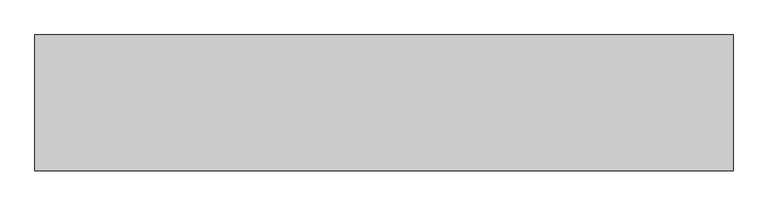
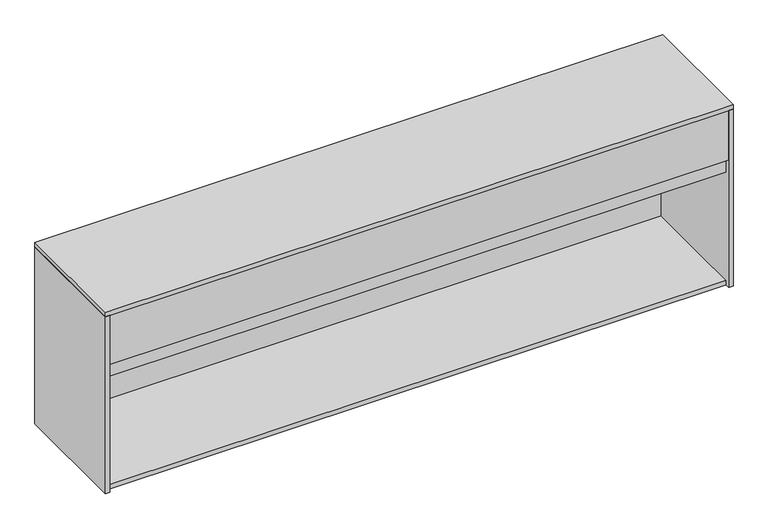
"""IFC4 building model written with IfcOpenShell, lengths in millimetres: furniture geometry, Vanity-Compact Laminate-Duracube-Cabinet Semi Recessed Basin 350 : No Basins no Splashback."""

import ifcopenshell
import ifcopenshell.guid

model = None  # the IFC model being written
_history = None  # IfcOwnerHistory: only IFC2X3 demands one
_inside = {}  # id of a spatial element -> (the spatial element, [elements in it])
_under = {}  # id of a project, library or spatial element -> (it, [spatial elements below it])
_declared = {}  # id of a project -> (the project, [libraries it declares])
_typed = {}  # id of a type object -> (the type object, [elements of that type])
_made_of = {}  # id of a material, layer set ... -> (it, [elements and type objects made of it])


def new_model(schema):
    """Start an empty IFC model of exactly this schema.

    Asked for "IFC4X3", IfcOpenShell would pick the latest addendum, in which some entities
    have other attributes; the version numbers below select the first issue.
    IFC2X3 requires an IfcOwnerHistory on every rooted entity: one is made here for all.
    """
    global model, _history
    if schema == "IFC4X3":
        model = ifcopenshell.file(schema_version=(4, 3, 0, 0))
    else:
        model = ifcopenshell.file(schema=schema)
    _inside.clear()
    _under.clear()
    _declared.clear()
    _typed.clear()
    _made_of.clear()
    _history = None
    if model.schema == "IFC2X3":
        org = make("IfcOrganization", Name="unknown")
        user = make(
            "IfcPersonAndOrganization",
            ThePerson=make("IfcPerson", FamilyName="unknown"),
            TheOrganization=org,
        )
        app = make(
            "IfcApplication",
            ApplicationDeveloper=org,
            Version="unknown",
            ApplicationFullName="unknown",
            ApplicationIdentifier="unknown",
        )
        _history = make(
            "IfcOwnerHistory",
            OwningUser=user,
            OwningApplication=app,
            ChangeAction="ADDED",
            CreationDate=0,
        )
    return model


def make(cls, **values):
    """One entity of the class cls with the attributes given. An attribute that is None is left unset."""
    return model.create_entity(
        cls, **{name: value for name, value in values.items() if value is not None}
    )


def rooted(cls, **values):
    """An entity with a GlobalId (a new one), such as an element, a storey or a relation."""
    return make(cls, GlobalId=ifcopenshell.guid.new(), OwnerHistory=_history, **values)


def si_unit(unit_type, name, prefix=None):
    """IfcSIUnit, for example si_unit("LENGTHUNIT", "METRE", prefix="MILLI")."""
    return make("IfcSIUnit", UnitType=unit_type, Prefix=prefix, Name=name)


def assignment(units):
    """IfcUnitAssignment: the units of a project."""
    return None if units is None else make("IfcUnitAssignment", Units=units)


def point(xyz):
    """IfcCartesianPoint."""
    return None if xyz is None else make("IfcCartesianPoint", Coordinates=xyz)


def direction(xyz):
    """IfcDirection."""
    return None if xyz is None else make("IfcDirection", DirectionRatios=xyz)


def frame(location, z_axis=None, x_axis=None):
    """IfcAxis2Placement3D, a coordinate frame: its origin and axes. An axis left out is left unset."""
    return make(
        "IfcAxis2Placement3D",
        Location=point(location),
        Axis=direction(z_axis),
        RefDirection=direction(x_axis),
    )


def origin():
    """The frame at (0, 0, 0) with its axes left unset."""
    return frame((0.0, 0.0, 0.0))


def place(relative_to, where):
    """IfcLocalPlacement: puts the frame where relative to a parent placement (None: the world)."""
    return make(
        "IfcLocalPlacement", PlacementRelTo=relative_to, RelativePlacement=where
    )


def context(
    kind, dimensions, precision=None, world=None, true_north=None, identifier=None
):
    """IfcGeometricRepresentationContext, for example the 3D "Model" context."""
    return make(
        "IfcGeometricRepresentationContext",
        ContextIdentifier=identifier,
        ContextType=kind,
        CoordinateSpaceDimension=dimensions,
        Precision=precision,
        WorldCoordinateSystem=world,
        TrueNorth=true_north,
    )


def project(units=None, contexts=None):
    """IfcProject with its units and contexts."""
    return rooted(
        "IfcProject",
        Name="project",
        RepresentationContexts=contexts,
        UnitsInContext=assignment(units),
    )


def spatial(cls, under=None, at=None, **own):
    """A site, building, storey or space (cls), placed at a placement, below another one or the project."""
    s = rooted(cls, ObjectPlacement=at, **own)
    if under is not None:
        _under.setdefault(under.id(), (under, []))[1].append(s)
    return s


def polyline(points):
    """IfcPolyline through the points."""
    return make("IfcPolyline", Points=[point(p) for p in points])


def outline(outer, holes=None, kind="AREA"):
    """IfcArbitraryClosedProfileDef: a profile drawn as a closed curve; with holes, ...WithVoids."""
    if holes is None:
        return make("IfcArbitraryClosedProfileDef", ProfileType=kind, OuterCurve=outer)
    return make(
        "IfcArbitraryProfileDefWithVoids",
        ProfileType=kind,
        OuterCurve=outer,
        InnerCurves=holes,
    )


def extrude(swept, where, along, depth):
    """IfcExtrudedAreaSolid: the profile swept, set in the frame where, extruded along a direction by depth."""
    return make(
        "IfcExtrudedAreaSolid",
        SweptArea=swept,
        Position=where,
        ExtrudedDirection=direction(along),
        Depth=depth,
    )


def faces_of(points, faces, orient=None, outer=None):
    """IfcFace entities. A face is a list of loops; a loop is a list of indices into points, from 0.

    orient and outer hold one flag for each loop. By default every Orientation is true, the
    first loop of a face is its IfcFaceOuterBound and the others are IfcFaceBound.
    """
    made = []
    for i, loops in enumerate(faces):
        bounds = []
        for j, loop in enumerate(loops):
            is_outer = j == 0 if outer is None else outer[i][j]
            bounds.append(
                make(
                    "IfcFaceOuterBound" if is_outer else "IfcFaceBound",
                    Bound=make("IfcPolyLoop", Polygon=[points[k] for k in loop]),
                    Orientation=True if orient is None else orient[i][j],
                )
            )
        made.append(make("IfcFace", Bounds=bounds))
    return made


def faceted_brep(points, faces, orient=None, outer=None, voids=None):
    """IfcFacetedBrep: a solid bounded by flat faces; with voids (closed shells), ...WithVoids."""
    shared = [point(p) for p in points]
    hull = make("IfcClosedShell", CfsFaces=faces_of(shared, faces, orient, outer))
    if voids is None:
        return make("IfcFacetedBrep", Outer=hull)
    return make(
        "IfcFacetedBrepWithVoids",
        Outer=hull,
        Voids=[
            make(cls, CfsFaces=faces_of(shared, fs, o, b)) for cls, fs, o, b in voids
        ],
    )


def shape(context_of_items, identifier, shape_type, items):
    """IfcShapeRepresentation: the items that make up one representation, for example the "Body"."""
    return make(
        "IfcShapeRepresentation",
        ContextOfItems=context_of_items,
        RepresentationIdentifier=identifier,
        RepresentationType=shape_type,
        Items=items,
    )


def source(mapping_origin, context_of_items, identifier, shape_type, items):
    """IfcRepresentationMap: a shape defined once, which mapped items show again and again."""
    return make(
        "IfcRepresentationMap",
        MappingOrigin=mapping_origin,
        MappedRepresentation=shape(context_of_items, identifier, shape_type, items),
    )


def transform(
    local_origin,
    x_axis=None,
    y_axis=None,
    z_axis=None,
    scale=None,
    scale2=None,
    scale3=None,
    uniform=True,
):
    """IfcCartesianTransformationOperator3D, or its non-uniform kind. x_axis, y_axis, z_axis: its Axis1, 2, 3."""
    if uniform:
        return make(
            "IfcCartesianTransformationOperator3D",
            Axis1=direction(x_axis),
            Axis2=direction(y_axis),
            LocalOrigin=point(local_origin),
            Scale=scale,
            Axis3=direction(z_axis),
        )
    return make(
        "IfcCartesianTransformationOperator3DnonUniform",
        Axis1=direction(x_axis),
        Axis2=direction(y_axis),
        LocalOrigin=point(local_origin),
        Scale=scale,
        Axis3=direction(z_axis),
        Scale2=scale2,
        Scale3=scale3,
    )


def mapped(mapping_source, mapping_target):
    """IfcMappedItem: shows the shape of a source again, moved by a transform."""
    return make(
        "IfcMappedItem", MappingSource=mapping_source, MappingTarget=mapping_target
    )


def made_of(thing, what):
    """Note that an element or type object is made of a material, layer set ...; save() writes the relation."""
    if what is not None:
        _made_of.setdefault(what.id(), (what, []))[1].append(thing)
    return thing


def element(
    cls,
    number,
    at=None,
    inside=None,
    cuts=None,
    type_object=None,
    material=None,
    context=None,
    identifier="Body",
    shape_type=None,
    held_by="IfcProductDefinitionShape",
    body=None,
    shapes=None,
    **own,
):
    """One element of the class cls, such as IfcWall. Its Tag is "e" and its number.

    at: its placement. inside: the storey or other place that contains it. cuts: it is an
    opening in that element (IfcRelVoidsElement). A single representation is given by context,
    identifier, shape_type and body (its items); several are given by shapes. held_by: the class
    of the entity that holds the representations. save() writes the other relations.
    """
    e = rooted(cls, Tag="e%d" % number, ObjectPlacement=at, **own)
    if body is not None:
        shapes = [shape(context, identifier, shape_type, body)]
    if shapes is not None:
        e.Representation = make(held_by, Representations=shapes)
    if inside is not None:
        _inside.setdefault(inside.id(), (inside, []))[1].append(e)
    if cuts is not None:
        rooted(
            "IfcRelVoidsElement", RelatingBuildingElement=cuts, RelatedOpeningElement=e
        )
    if type_object is not None:
        _typed.setdefault(type_object.id(), (type_object, []))[1].append(e)
    return made_of(e, material)


def aggregate(whole, parts):
    """IfcRelAggregates: a whole, such as a stair, and the parts it consists of."""
    return rooted("IfcRelAggregates", RelatingObject=whole, RelatedObjects=parts)


def save(model, path):
    """Write the relations noted so far, then the file.

    IfcRelAggregates (storeys below a building ...), IfcRelContainedInSpatialStructure (elements
    in a storey), IfcRelDefinesByType, IfcRelAssociatesMaterial and IfcRelDeclares: one each for
    every whole, place, type object, material and project.
    """
    for whole, parts in _under.values():
        aggregate(whole, parts)
    for where, things in _inside.values():
        rooted(
            "IfcRelContainedInSpatialStructure",
            RelatedElements=things,
            RelatingStructure=where,
        )
    for kind, things in _typed.values():
        rooted("IfcRelDefinesByType", RelatedObjects=things, RelatingType=kind)
    for what, things in _made_of.values():
        rooted("IfcRelAssociatesMaterial", RelatedObjects=things, RelatingMaterial=what)
    for by, libraries in _declared.values():
        rooted("IfcRelDeclares", RelatingContext=by, RelatedDefinitions=libraries)
    model.write(path)


def furniture_7a1c18e0(model_context):
    return source(origin(), model_context, "Body", "SolidModel", [
        extrude(outline(polyline([(1787.0, -13.0), (1787.0, -63.0), (13.0, -63.0), (13.0, -13.0), (1787.0, -13.0)])), frame((0.0, 0.0, 821.0), z_axis=(0.0, 0.0, 1.0), x_axis=(1.0, 0.0, 0.0)), (0.0, 0.0, 1.0), 16.0),
        extrude(outline(polyline([(1787.0, -13.0), (1787.0, -337.0), (13.0, -337.0), (13.0, -13.0), (1787.0, -13.0)])), frame((0.0, 0.0, 300.0), z_axis=(0.0, 0.0, 1.0), x_axis=(1.0, 0.0, 0.0)), (0.0, 0.0, 1.0), 13.0),
        extrude(outline(polyline([(1787.0, 0.0), (1787.0, -13.0), (13.0, -13.0), (13.0, 0.0), (1787.0, 0.0)])), frame((0.0, 0.0, 300.0), z_axis=(0.0, 0.0, 1.0), x_axis=(1.0, 0.0, 0.0)), (0.0, 0.0, 1.0), 537.0),
        extrude(outline(polyline([(1800.0, 0.0), (1800.0, -350.0), (1787.0, -350.0), (1787.0, 0.0), (1800.0, 0.0)])), frame((0.0, 0.0, 300.0), z_axis=(0.0, 0.0, 1.0), x_axis=(1.0, 0.0, 0.0)), (0.0, 0.0, 1.0), 537.0),
        extrude(outline(polyline([(13.0, 0.0), (13.0, -350.0), (0.0, -350.0), (0.0, 0.0), (13.0, 0.0)])), frame((0.0, 0.0, 300.0), z_axis=(0.0, 0.0, 1.0), x_axis=(1.0, 0.0, 0.0)), (0.0, 0.0, 1.0), 537.0),
        faceted_brep([(0.0, -350.0, 850.0), (1800.0, -350.0, 850.0), (1800.0, 0.0, 850.0), (0.0, 0.0, 850.0), (1787.0, -337.0, 642.0), (13.0, -337.0, 642.0), (13.0, -324.0, 642.0), (1787.0, -324.0, 642.0), (0.0, -350.0, 837.0), (1800.0, -350.0, 837.0), (1800.0, 0.0, 837.0), (0.0, 0.0, 837.0), (1787.0, -349.5, 837.0), (1787.0, -324.0, 837.0), (13.0, -324.0, 837.0), (13.0, -349.5, 837.0), (13.0, -337.0, 687.0), (13.0, -349.5, 687.0), (1787.0, -349.5, 687.0), (1787.0, -337.0, 687.0)], [[[0, 1, 2, 3]], [[4, 5, 6, 7]], [[1, 0, 8, 9]], [[2, 1, 9, 10]], [[3, 2, 10, 11]], [[0, 3, 11, 8]], [[10, 9, 8, 11], [12, 13, 14, 15]], [[16, 17, 15, 14, 6, 5]], [[18, 19, 4, 7, 13, 12]], [[18, 17, 16, 19]], [[19, 16, 5, 4]], [[14, 13, 7, 6]], [[17, 18, 12, 15]]]),
    ])


if __name__ == "__main__":
    model = new_model("IFC4")
    model_context = context("Model", 3, world=origin())
    ifc_project = project(units=[si_unit("LENGTHUNIT", "METRE", prefix="MILLI")], contexts=[model_context])
    site = spatial("IfcSite", under=ifc_project)
    building = spatial("IfcBuilding", under=site)
    placement = place(None, origin())
    furniture_shape = furniture_7a1c18e0(model_context)
    element("IfcFurniture", 1, ObjectType="Vanity-Compact Laminate-Duracube-Cabinet Semi Recessed Basin 350 : No Basins no Splashback", at=placement, inside=building, context=model_context, shape_type="MappedRepresentation", body=[
        mapped(furniture_shape, transform((0.0, 0.0, 0.0), x_axis=(1.0, 0.0, 0.0), y_axis=(0.0, 1.0, 0.0), z_axis=(0.0, 0.0, 1.0))),
    ])
    save(model, "model.ifc")
